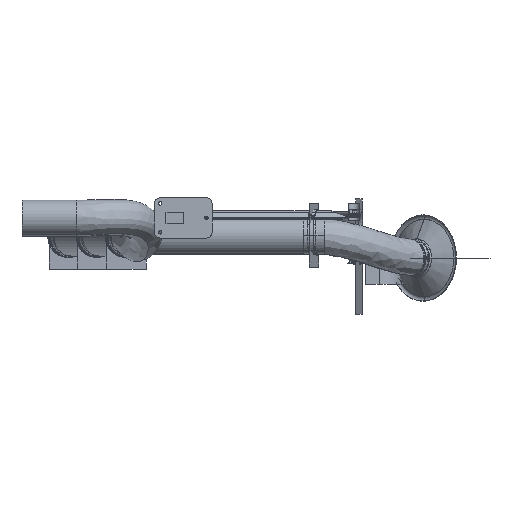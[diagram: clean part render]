
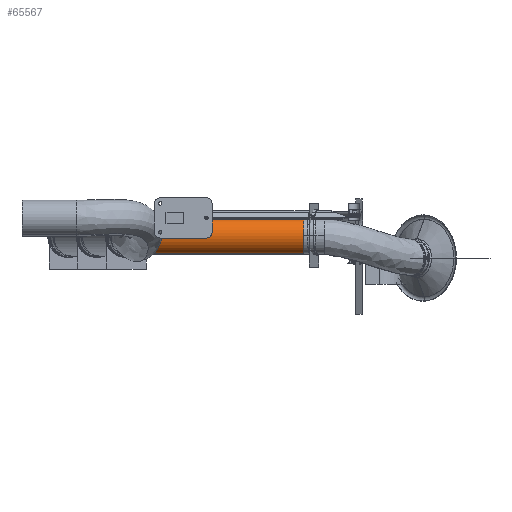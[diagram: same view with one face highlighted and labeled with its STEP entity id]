
A CAD part, left-side view. The second image highlights one B-rep face of the part: STEP entity #65567.
In plain terms, the highlighted free-form (B-spline) face has degree [3, 3] with [7, 6] control points.
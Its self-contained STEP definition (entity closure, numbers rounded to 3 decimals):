
#64682=CARTESIAN_POINT('',(1152.215,-562.358,-59.5));
#64683=DIRECTION('',(0.,1.,0.));
#64684=DIRECTION('',(-0.165,0.,-0.986));
#64685=AXIS2_PLACEMENT_3D('',#64682,#64683,#64684);
#64690=CARTESIAN_POINT('',(1141.91,-562.358,
-121.145));
#64691=CARTESIAN_POINT('',(1141.91,-485.691,
-121.145));
#64692=CARTESIAN_POINT('',(1141.91,-332.358,
-121.145));
#64693=CARTESIAN_POINT('',(1141.91,-102.358,
-121.145));
#64694=CARTESIAN_POINT('',(1141.91,50.975,
-121.145));
#64695=CARTESIAN_POINT('',(1141.91,127.642,
-121.145));
#64708=CARTESIAN_POINT('',(1162.52,-562.358,
2.145));
#64709=CARTESIAN_POINT('',(1162.52,-485.691,
2.145));
#64710=CARTESIAN_POINT('',(1162.52,-332.358,
2.145));
#64711=CARTESIAN_POINT('',(1162.52,-102.358,
2.145));
#64712=CARTESIAN_POINT('',(1162.52,50.975,2.145));
#64713=CARTESIAN_POINT('',(1162.52,127.642,2.145));
#64786=CARTESIAN_POINT('',(1152.215,127.642,-59.5));
#64787=DIRECTION('',(0.,1.,0.));
#64788=DIRECTION('',(-0.165,0.,-0.986));
#64789=AXIS2_PLACEMENT_3D('',#64786,#64787,#64788);
#65200=CARTESIAN_POINT('',(1162.52,-562.358,
2.145));
#65201=CARTESIAN_POINT('',(1141.91,-562.358,
-121.145));
#65202=VERTEX_POINT('',#65200);
#65203=VERTEX_POINT('',#65201);
#65204=CARTESIAN_POINT('',(1162.52,127.642,2.145));
#65205=CARTESIAN_POINT('',(1141.91,127.642,
-121.145));
#65206=VERTEX_POINT('',#65204);
#65207=VERTEX_POINT('',#65205);
#65515=CARTESIAN_POINT('',(1145.801,-576.158,
-121.67));
#65516=CARTESIAN_POINT('',(1145.801,-571.558,
-121.67));
#65517=CARTESIAN_POINT('',(1145.801,-336.958,
-121.67));
#65518=CARTESIAN_POINT('',(1145.801,-97.758,
-121.67));
#65519=CARTESIAN_POINT('',(1145.801,136.842,
-121.67));
#65520=CARTESIAN_POINT('',(1145.801,141.442,
-121.67));
#65521=CARTESIAN_POINT('',(1107.541,-576.158,
-117.723));
#65522=CARTESIAN_POINT('',(1107.541,-571.558,
-117.723));
#65523=CARTESIAN_POINT('',(1107.541,-336.958,
-117.723));
#65524=CARTESIAN_POINT('',(1107.541,-97.758,
-117.723));
#65525=CARTESIAN_POINT('',(1107.541,136.842,
-117.723));
#65526=CARTESIAN_POINT('',(1107.541,141.442,
-117.723));
#65527=CARTESIAN_POINT('',(1084.228,-576.158,
-87.131));
#65528=CARTESIAN_POINT('',(1084.228,-571.558,
-87.131));
#65529=CARTESIAN_POINT('',(1084.228,-336.958,
-87.131));
#65530=CARTESIAN_POINT('',(1084.228,-97.758,
-87.131));
#65531=CARTESIAN_POINT('',(1084.228,136.842,
-87.131));
#65532=CARTESIAN_POINT('',(1084.228,141.442,
-87.131));
#65533=CARTESIAN_POINT('',(1090.57,-576.158,
-49.195));
#65534=CARTESIAN_POINT('',(1090.57,-571.558,
-49.195));
#65535=CARTESIAN_POINT('',(1090.57,-336.958,
-49.195));
#65536=CARTESIAN_POINT('',(1090.57,-97.758,
-49.195));
#65537=CARTESIAN_POINT('',(1090.57,136.842,
-49.195));
#65538=CARTESIAN_POINT('',(1090.57,141.442,
-49.195));
#65539=CARTESIAN_POINT('',(1096.912,-576.158,
-11.259));
#65540=CARTESIAN_POINT('',(1096.912,-571.558,
-11.259));
#65541=CARTESIAN_POINT('',(1096.912,-336.958,
-11.259));
#65542=CARTESIAN_POINT('',(1096.912,-97.758,
-11.259));
#65543=CARTESIAN_POINT('',(1096.912,136.842,
-11.259));
#65544=CARTESIAN_POINT('',(1096.912,141.442,
-11.259));
#65545=CARTESIAN_POINT('',(1128.907,-576.158,
10.087));
#65546=CARTESIAN_POINT('',(1128.907,-571.558,
10.087));
#65547=CARTESIAN_POINT('',(1128.907,-336.958,
10.087));
#65548=CARTESIAN_POINT('',(1128.907,-97.758,
10.087));
#65549=CARTESIAN_POINT('',(1128.907,136.842,10.087));
#65550=CARTESIAN_POINT('',(1128.907,141.442,10.087));
#65551=CARTESIAN_POINT('',(1166.37,-576.158,
1.376));
#65552=CARTESIAN_POINT('',(1166.37,-571.558,
1.376));
#65553=CARTESIAN_POINT('',(1166.37,-336.958,
1.376));
#65554=CARTESIAN_POINT('',(1166.37,-97.758,
1.376));
#65555=CARTESIAN_POINT('',(1166.37,136.842,1.376));
#65556=CARTESIAN_POINT('',(1166.37,141.442,1.376));
#65557=(BOUNDED_SURFACE()B_SPLINE_SURFACE(3,3,((#65515,#65516,#65517,#65518,
#65519,#65520),(#65521,#65522,#65523,#65524,#65525,#65526),(#65527,#65528,
#65529,#65530,#65531,#65532),(#65533,#65534,#65535,#65536,#65537,#65538),
(#65539,#65540,#65541,#65542,#65543,#65544),(#65545,#65546,#65547,#65548,#65549,
#65550),(#65551,#65552,#65553,#65554,#65555,#65556)),.UNSPECIFIED.,.F.,.F.,.F.)B_SPLINE_SURFACE_WITH_KNOTS((4,3,4),(4,1,1,4),(0.,1.,2.),(-0.02,0.,1.,
1.02),.UNSPECIFIED.)GEOMETRIC_REPRESENTATION_ITEM()RATIONAL_B_SPLINE_SURFACE((
(1.187,1.187,1.187,1.187,
1.187,1.187),(0.938,0.938,
0.938,0.938,0.938,0.938),(
0.938,0.938,0.938,0.938,
0.938,0.938),(1.187,1.187,
1.187,1.187,1.187,1.187),(
0.938,0.938,0.938,0.938,
0.938,0.938),(0.938,0.938,
0.938,0.938,0.938,0.938),(
1.187,1.187,1.187,1.187,
1.187,1.187)))REPRESENTATION_ITEM('')SURFACE());
#65558=ORIENTED_EDGE('',*,*,#65502,.F.);
#65560=ORIENTED_EDGE('',*,*,#65559,.T.);
#65562=ORIENTED_EDGE('',*,*,#65561,.T.);
#65564=ORIENTED_EDGE('',*,*,#65563,.F.);
#65565=EDGE_LOOP('',(#65558,#65560,#65562,#65564));
#65566=FACE_OUTER_BOUND('',#65565,.F.);
#64686=CIRCLE('',#64685,62.5);
#64696=B_SPLINE_CURVE_WITH_KNOTS('',3,(#64690,#64691,#64692,#64693,#64694,
#64695),.UNSPECIFIED.,.F.,.F.,(4,1,1,4),(0.,0.333,
0.667,1.),.UNSPECIFIED.);
#64714=B_SPLINE_CURVE_WITH_KNOTS('',3,(#64708,#64709,#64710,#64711,#64712,
#64713),.UNSPECIFIED.,.F.,.F.,(4,1,1,4),(0.,0.333,
0.667,1.),.UNSPECIFIED.);
#64790=CIRCLE('',#64789,62.5);
#65502=EDGE_CURVE('',#65203,#65202,#64686,.T.);
#65559=EDGE_CURVE('',#65203,#65207,#64696,.T.);
#65561=EDGE_CURVE('',#65207,#65206,#64790,.T.);
#65563=EDGE_CURVE('',#65202,#65206,#64714,.T.);
#65567=ADVANCED_FACE('',(#65566),#65557,.T.);
